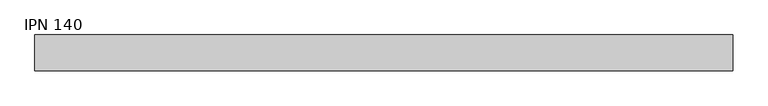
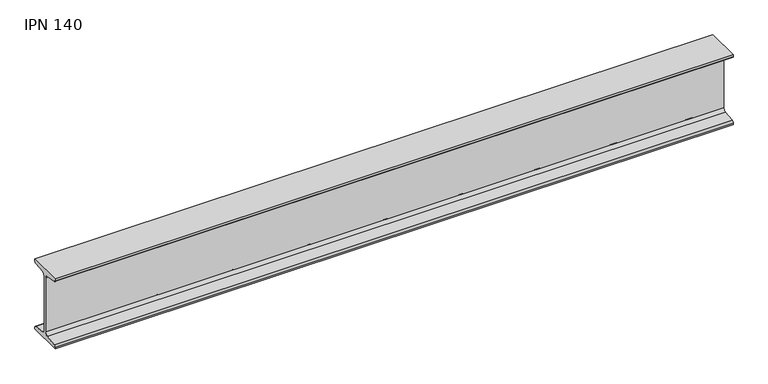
"""IFC4 building model written with IfcOpenShell, lengths in millimetres: beam geometry, IPN - Secciones en I con alas cónicas : IPN 140."""

import ifcopenshell
import ifcopenshell.guid

model = None  # the IFC model being written
_history = None  # IfcOwnerHistory: only IFC2X3 demands one
_inside = {}  # id of a spatial element -> (the spatial element, [elements in it])
_under = {}  # id of a project, library or spatial element -> (it, [spatial elements below it])
_declared = {}  # id of a project -> (the project, [libraries it declares])
_typed = {}  # id of a type object -> (the type object, [elements of that type])
_made_of = {}  # id of a material, layer set ... -> (it, [elements and type objects made of it])


def new_model(schema):
    """Start an empty IFC model of exactly this schema.

    Asked for "IFC4X3", IfcOpenShell would pick the latest addendum, in which some entities
    have other attributes; the version numbers below select the first issue.
    IFC2X3 requires an IfcOwnerHistory on every rooted entity: one is made here for all.
    """
    global model, _history
    if schema == "IFC4X3":
        model = ifcopenshell.file(schema_version=(4, 3, 0, 0))
    else:
        model = ifcopenshell.file(schema=schema)
    _inside.clear()
    _under.clear()
    _declared.clear()
    _typed.clear()
    _made_of.clear()
    _history = None
    if model.schema == "IFC2X3":
        org = make("IfcOrganization", Name="unknown")
        user = make(
            "IfcPersonAndOrganization",
            ThePerson=make("IfcPerson", FamilyName="unknown"),
            TheOrganization=org,
        )
        app = make(
            "IfcApplication",
            ApplicationDeveloper=org,
            Version="unknown",
            ApplicationFullName="unknown",
            ApplicationIdentifier="unknown",
        )
        _history = make(
            "IfcOwnerHistory",
            OwningUser=user,
            OwningApplication=app,
            ChangeAction="ADDED",
            CreationDate=0,
        )
    return model


def make(cls, **values):
    """One entity of the class cls with the attributes given. An attribute that is None is left unset."""
    return model.create_entity(
        cls, **{name: value for name, value in values.items() if value is not None}
    )


def rooted(cls, **values):
    """An entity with a GlobalId (a new one), such as an element, a storey or a relation."""
    return make(cls, GlobalId=ifcopenshell.guid.new(), OwnerHistory=_history, **values)


def si_unit(unit_type, name, prefix=None):
    """IfcSIUnit, for example si_unit("LENGTHUNIT", "METRE", prefix="MILLI")."""
    return make("IfcSIUnit", UnitType=unit_type, Prefix=prefix, Name=name)


def assignment(units):
    """IfcUnitAssignment: the units of a project."""
    return None if units is None else make("IfcUnitAssignment", Units=units)


def point(xyz):
    """IfcCartesianPoint."""
    return None if xyz is None else make("IfcCartesianPoint", Coordinates=xyz)


def direction(xyz):
    """IfcDirection."""
    return None if xyz is None else make("IfcDirection", DirectionRatios=xyz)


def frame(location, z_axis=None, x_axis=None):
    """IfcAxis2Placement3D, a coordinate frame: its origin and axes. An axis left out is left unset."""
    return make(
        "IfcAxis2Placement3D",
        Location=point(location),
        Axis=direction(z_axis),
        RefDirection=direction(x_axis),
    )


def frame_2d(location, x_axis=None):
    """IfcAxis2Placement2D, a coordinate frame in the plane: its origin and x axis."""
    return make(
        "IfcAxis2Placement2D", Location=point(location), RefDirection=direction(x_axis)
    )


def origin():
    """The frame at (0, 0, 0) with its axes left unset."""
    return frame((0.0, 0.0, 0.0))


def place(relative_to, where):
    """IfcLocalPlacement: puts the frame where relative to a parent placement (None: the world)."""
    return make(
        "IfcLocalPlacement", PlacementRelTo=relative_to, RelativePlacement=where
    )


def context(
    kind, dimensions, precision=None, world=None, true_north=None, identifier=None
):
    """IfcGeometricRepresentationContext, for example the 3D "Model" context."""
    return make(
        "IfcGeometricRepresentationContext",
        ContextIdentifier=identifier,
        ContextType=kind,
        CoordinateSpaceDimension=dimensions,
        Precision=precision,
        WorldCoordinateSystem=world,
        TrueNorth=true_north,
    )


def project(units=None, contexts=None):
    """IfcProject with its units and contexts."""
    return rooted(
        "IfcProject",
        Name="project",
        RepresentationContexts=contexts,
        UnitsInContext=assignment(units),
    )


def spatial(cls, under=None, at=None, **own):
    """A site, building, storey or space (cls), placed at a placement, below another one or the project."""
    s = rooted(cls, ObjectPlacement=at, **own)
    if under is not None:
        _under.setdefault(under.id(), (under, []))[1].append(s)
    return s


def polyline(points):
    """IfcPolyline through the points."""
    return make("IfcPolyline", Points=[point(p) for p in points])


def circle_curve(where, radius):
    """IfcCircle in the frame where."""
    return make("IfcCircle", Position=where, Radius=radius)


def trimmed(basis, trim1, trim2, sense, master):
    """IfcTrimmedCurve: the piece of a basis curve between two trims."""
    return make(
        "IfcTrimmedCurve",
        BasisCurve=basis,
        Trim1=trim1,
        Trim2=trim2,
        SenseAgreement=sense,
        MasterRepresentation=master,
    )


def segment(curve, same_sense, transition):
    """IfcCompositeCurveSegment."""
    return make(
        "IfcCompositeCurveSegment",
        Transition=transition,
        SameSense=same_sense,
        ParentCurve=curve,
    )


def composite_curve(segments, self_intersect=None):
    """IfcCompositeCurve: segments joined end to end."""
    return make("IfcCompositeCurve", Segments=segments, SelfIntersect=self_intersect)


def outline(outer, holes=None, kind="AREA"):
    """IfcArbitraryClosedProfileDef: a profile drawn as a closed curve; with holes, ...WithVoids."""
    if holes is None:
        return make("IfcArbitraryClosedProfileDef", ProfileType=kind, OuterCurve=outer)
    return make(
        "IfcArbitraryProfileDefWithVoids",
        ProfileType=kind,
        OuterCurve=outer,
        InnerCurves=holes,
    )


def extrude(swept, where, along, depth):
    """IfcExtrudedAreaSolid: the profile swept, set in the frame where, extruded along a direction by depth."""
    return make(
        "IfcExtrudedAreaSolid",
        SweptArea=swept,
        Position=where,
        ExtrudedDirection=direction(along),
        Depth=depth,
    )


def shape(context_of_items, identifier, shape_type, items):
    """IfcShapeRepresentation: the items that make up one representation, for example the "Body"."""
    return make(
        "IfcShapeRepresentation",
        ContextOfItems=context_of_items,
        RepresentationIdentifier=identifier,
        RepresentationType=shape_type,
        Items=items,
    )


def source(mapping_origin, context_of_items, identifier, shape_type, items):
    """IfcRepresentationMap: a shape defined once, which mapped items show again and again."""
    return make(
        "IfcRepresentationMap",
        MappingOrigin=mapping_origin,
        MappedRepresentation=shape(context_of_items, identifier, shape_type, items),
    )


def transform(
    local_origin,
    x_axis=None,
    y_axis=None,
    z_axis=None,
    scale=None,
    scale2=None,
    scale3=None,
    uniform=True,
):
    """IfcCartesianTransformationOperator3D, or its non-uniform kind. x_axis, y_axis, z_axis: its Axis1, 2, 3."""
    if uniform:
        return make(
            "IfcCartesianTransformationOperator3D",
            Axis1=direction(x_axis),
            Axis2=direction(y_axis),
            LocalOrigin=point(local_origin),
            Scale=scale,
            Axis3=direction(z_axis),
        )
    return make(
        "IfcCartesianTransformationOperator3DnonUniform",
        Axis1=direction(x_axis),
        Axis2=direction(y_axis),
        LocalOrigin=point(local_origin),
        Scale=scale,
        Axis3=direction(z_axis),
        Scale2=scale2,
        Scale3=scale3,
    )


def mapped(mapping_source, mapping_target):
    """IfcMappedItem: shows the shape of a source again, moved by a transform."""
    return make(
        "IfcMappedItem", MappingSource=mapping_source, MappingTarget=mapping_target
    )


def made_of(thing, what):
    """Note that an element or type object is made of a material, layer set ...; save() writes the relation."""
    if what is not None:
        _made_of.setdefault(what.id(), (what, []))[1].append(thing)
    return thing


def element(
    cls,
    number,
    at=None,
    inside=None,
    cuts=None,
    type_object=None,
    material=None,
    context=None,
    identifier="Body",
    shape_type=None,
    held_by="IfcProductDefinitionShape",
    body=None,
    shapes=None,
    **own,
):
    """One element of the class cls, such as IfcWall. Its Tag is "e" and its number.

    at: its placement. inside: the storey or other place that contains it. cuts: it is an
    opening in that element (IfcRelVoidsElement). A single representation is given by context,
    identifier, shape_type and body (its items); several are given by shapes. held_by: the class
    of the entity that holds the representations. save() writes the other relations.
    """
    e = rooted(cls, Tag="e%d" % number, ObjectPlacement=at, **own)
    if body is not None:
        shapes = [shape(context, identifier, shape_type, body)]
    if shapes is not None:
        e.Representation = make(held_by, Representations=shapes)
    if inside is not None:
        _inside.setdefault(inside.id(), (inside, []))[1].append(e)
    if cuts is not None:
        rooted(
            "IfcRelVoidsElement", RelatingBuildingElement=cuts, RelatedOpeningElement=e
        )
    if type_object is not None:
        _typed.setdefault(type_object.id(), (type_object, []))[1].append(e)
    return made_of(e, material)


def aggregate(whole, parts):
    """IfcRelAggregates: a whole, such as a stair, and the parts it consists of."""
    return rooted("IfcRelAggregates", RelatingObject=whole, RelatedObjects=parts)


def save(model, path):
    """Write the relations noted so far, then the file.

    IfcRelAggregates (storeys below a building ...), IfcRelContainedInSpatialStructure (elements
    in a storey), IfcRelDefinesByType, IfcRelAssociatesMaterial and IfcRelDeclares: one each for
    every whole, place, type object, material and project.
    """
    for whole, parts in _under.values():
        aggregate(whole, parts)
    for where, things in _inside.values():
        rooted(
            "IfcRelContainedInSpatialStructure",
            RelatedElements=things,
            RelatingStructure=where,
        )
    for kind, things in _typed.values():
        rooted("IfcRelDefinesByType", RelatedObjects=things, RelatingType=kind)
    for what, things in _made_of.values():
        rooted("IfcRelAssociatesMaterial", RelatedObjects=things, RelatingMaterial=what)
    for by, libraries in _declared.values():
        rooted("IfcRelDeclares", RelatingContext=by, RelatedDefinitions=libraries)
    model.write(path)


def ipn_140_bcc21dc4(model_context):
    return source(origin(), model_context, "Body", "SweptSolid", [
        extrude(outline(composite_curve([segment(polyline([(-33.0, 70.0), (33.0, 70.0), (33.0, 66.6671583)]), True, "CONTINUOUS"), segment(trimmed(circle_curve(frame_2d((29.6, 66.6671583)), 3.4), [point((33.0, 66.6671583))], [point((30.0714027, 63.2999964))], False, "CARTESIAN"), True, "CONTINUOUS"), segment(polyline([(30.0714027, 63.2999964), (7.7597073, 60.176359)]), True, "CONTINUOUS"), segment(trimmed(circle_curve(frame_2d((8.55, 54.5314111)), 5.7), [point((7.7597073, 60.176359))], [point((2.85, 54.5314111))], True, "CARTESIAN"), True, "CONTINUOUS"), segment(polyline([(2.85, 54.5314111), (2.85, -54.5314111)]), True, "CONTINUOUS"), segment(trimmed(circle_curve(frame_2d((8.55, -54.5314111)), 5.7), [point((2.85, -54.5314111))], [point((7.7597073, -60.176359))], True, "CARTESIAN"), True, "CONTINUOUS"), segment(polyline([(7.7597073, -60.176359), (30.0714027, -63.2999964)]), True, "CONTINUOUS"), segment(trimmed(circle_curve(frame_2d((29.6, -66.6671583)), 3.4), [point((30.0714027, -63.2999964))], [point((33.0, -66.6671583))], False, "CARTESIAN"), True, "CONTINUOUS"), segment(polyline([(33.0, -66.6671583), (33.0, -70.0), (-33.0, -70.0), (-33.0, -66.6671583)]), True, "CONTINUOUS"), segment(trimmed(circle_curve(frame_2d((-29.6, -66.6671583)), 3.4), [point((-33.0, -66.6671583))], [point((-30.0714027, -63.2999964))], False, "CARTESIAN"), True, "CONTINUOUS"), segment(polyline([(-30.0714027, -63.2999964), (-7.7597073, -60.176359)]), True, "CONTINUOUS"), segment(trimmed(circle_curve(frame_2d((-8.55, -54.5314111)), 5.7), [point((-7.7597073, -60.176359))], [point((-2.85, -54.5314111))], True, "CARTESIAN"), True, "CONTINUOUS"), segment(polyline([(-2.85, -54.5314111), (-2.85, 54.5314111)]), True, "CONTINUOUS"), segment(trimmed(circle_curve(frame_2d((-8.55, 54.5314111)), 5.7), [point((-2.85, 54.5314111))], [point((-7.7597073, 60.176359))], True, "CARTESIAN"), True, "CONTINUOUS"), segment(polyline([(-7.7597073, 60.176359), (-30.0714027, 63.2999964)]), True, "CONTINUOUS"), segment(trimmed(circle_curve(frame_2d((-29.6, 66.6671583)), 3.4), [point((-30.0714027, 63.2999964))], [point((-33.0, 66.6671583))], False, "CARTESIAN"), True, "CONTINUOUS"), segment(polyline([(-33.0, 66.6671583), (-33.0, 70.0)]), True, "CONTINUOUS")], self_intersect=False)), frame((-626.5, 0.0, 0.0), z_axis=(1.0, 0.0, 0.0), x_axis=(0.0, 1.0, 0.0)), (0.0, 0.0, 1.0), 1286.0),
    ])


if __name__ == "__main__":
    model = new_model("IFC4")
    model_context = context("Model", 3, world=origin())
    ifc_project = project(units=[si_unit("LENGTHUNIT", "METRE", prefix="MILLI")], contexts=[model_context])
    site = spatial("IfcSite", under=ifc_project)
    building = spatial("IfcBuilding", under=site)
    placement = place(None, origin())
    ipn_140_shape = ipn_140_bcc21dc4(model_context)
    element("IfcBeam", 1, ObjectType="IPN - Secciones en I con alas cónicas : IPN 140", at=placement, inside=building, context=model_context, shape_type="MappedRepresentation", body=[
        mapped(ipn_140_shape, transform((0.0, 0.0, 0.0), x_axis=(1.0, 0.0, 0.0), y_axis=(0.0, 1.0, 0.0), z_axis=(0.0, 0.0, 1.0))),
    ])
    save(model, "model.ifc")
